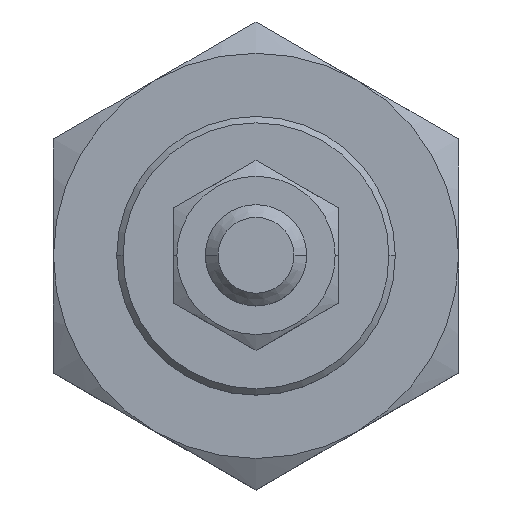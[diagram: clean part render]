
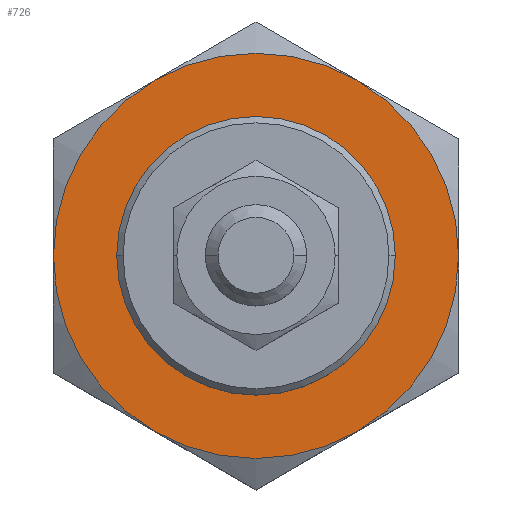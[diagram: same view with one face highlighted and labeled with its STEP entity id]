
A CAD part, top view. The second image highlights one B-rep face of the part: STEP entity #726.
In plain terms, the highlighted planar face has unit normal (0, 0, 1).
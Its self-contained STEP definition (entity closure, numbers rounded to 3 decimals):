
#3 = EDGE_CURVE ( 'NONE', #1230, #2369, #3244, .T. ) ;
#89 = DIRECTION ( 'NONE',  ( 0., 0., -1. ) ) ;
#94 = DIRECTION ( 'NONE',  ( -1., 0., 0. ) ) ;
#186 = DIRECTION ( 'NONE',  ( -1., 0., 0. ) ) ;
#197 = CARTESIAN_POINT ( 'NONE',  ( 0., 0., 5.5 ) ) ;
#216 = CARTESIAN_POINT ( 'NONE',  ( -8., -13.856, 5.5 ) ) ;
#229 = CARTESIAN_POINT ( 'NONE',  ( 0., 0., 5.5 ) ) ;
#266 = EDGE_CURVE ( 'NONE', #504, #2222, #1772, .T. ) ;
#298 = CARTESIAN_POINT ( 'NONE',  ( 0., 0., 5.5 ) ) ;
#300 = CARTESIAN_POINT ( 'NONE',  ( 8., -13.856, 5.5 ) ) ;
#467 = DIRECTION ( 'NONE',  ( 0., 0., 1. ) ) ;
#504 = VERTEX_POINT ( 'NONE', #300 ) ;
#510 = ORIENTED_EDGE ( 'NONE', *, *, #2425, .F. ) ;
#559 = DIRECTION ( 'NONE',  ( 0., 0., -1. ) ) ;
#699 = CARTESIAN_POINT ( 'NONE',  ( 0., 0., 5.5 ) ) ;
#726 = ADVANCED_FACE ( 'NONE', ( #2500, #2810 ), #746, .T. ) ;
#746 = PLANE ( 'NONE',  #1966 ) ;
#795 = CARTESIAN_POINT ( 'NONE',  ( 0., 0., 5.5 ) ) ;
#981 = CIRCLE ( 'NONE', #3122, 16. ) ;
#1049 = DIRECTION ( 'NONE',  ( 0., 0., 1. ) ) ;
#1093 = AXIS2_PLACEMENT_3D ( 'NONE', #795, #1644, #2267 ) ;
#1167 = EDGE_CURVE ( 'NONE', #2182, #3705, #981, .T. ) ;
#1201 = EDGE_LOOP ( 'NONE', ( #2158, #3012, #3359, #2315, #510, #2611 ) ) ;
#1230 = VERTEX_POINT ( 'NONE', #3501 ) ;
#1429 = CARTESIAN_POINT ( 'NONE',  ( 0., 0., 5.5 ) ) ;
#1514 = ORIENTED_EDGE ( 'NONE', *, *, #3093, .F. ) ;
#1543 = CIRCLE ( 'NONE', #1916, 11. ) ;
#1569 = CARTESIAN_POINT ( 'NONE',  ( -8., 13.856, 5.5 ) ) ;
#1644 = DIRECTION ( 'NONE',  ( 0., 0., -1. ) ) ;
#1772 = CIRCLE ( 'NONE', #1961, 16. ) ;
#1842 = CIRCLE ( 'NONE', #2948, 16. ) ;
#1916 = AXIS2_PLACEMENT_3D ( 'NONE', #3149, #467, #3414 ) ;
#1921 = CIRCLE ( 'NONE', #2899, 11. ) ;
#1961 = AXIS2_PLACEMENT_3D ( 'NONE', #699, #89, #2104 ) ;
#1966 = AXIS2_PLACEMENT_3D ( 'NONE', #197, #1049, #3698 ) ;
#1967 = EDGE_CURVE ( 'NONE', #2369, #504, #1842, .T. ) ;
#1999 = ORIENTED_EDGE ( 'NONE', *, *, #3437, .F. ) ;
#2009 = DIRECTION ( 'NONE',  ( 0., 0., -1. ) ) ;
#2042 = CIRCLE ( 'NONE', #2518, 16. ) ;
#2104 = DIRECTION ( 'NONE',  ( -1., 0., 0. ) ) ;
#2152 = AXIS2_PLACEMENT_3D ( 'NONE', #1429, #559, #3775 ) ;
#2158 = ORIENTED_EDGE ( 'NONE', *, *, #1967, .F. ) ;
#2182 = VERTEX_POINT ( 'NONE', #3022 ) ;
#2216 = DIRECTION ( 'NONE',  ( 0., 0., 1. ) ) ;
#2222 = VERTEX_POINT ( 'NONE', #216 ) ;
#2267 = DIRECTION ( 'NONE',  ( -1., 0., 0. ) ) ;
#2315 = ORIENTED_EDGE ( 'NONE', *, *, #1167, .F. ) ;
#2369 = VERTEX_POINT ( 'NONE', #2848 ) ;
#2425 = EDGE_CURVE ( 'NONE', #2222, #2182, #3439, .T. ) ;
#2500 = FACE_BOUND ( 'NONE', #3712, .T. ) ;
#2518 = AXIS2_PLACEMENT_3D ( 'NONE', #2715, #2729, #94 ) ;
#2540 = DIRECTION ( 'NONE',  ( 1., 0., 0. ) ) ;
#2568 = EDGE_CURVE ( 'NONE', #3705, #1230, #2042, .T. ) ;
#2611 = ORIENTED_EDGE ( 'NONE', *, *, #266, .F. ) ;
#2654 = CARTESIAN_POINT ( 'NONE',  ( -11., 0., 5.5 ) ) ;
#2657 = VERTEX_POINT ( 'NONE', #3097 ) ;
#2715 = CARTESIAN_POINT ( 'NONE',  ( 0., 0., 5.5 ) ) ;
#2729 = DIRECTION ( 'NONE',  ( 0., 0., -1. ) ) ;
#2810 = FACE_OUTER_BOUND ( 'NONE', #1201, .T. ) ;
#2848 = CARTESIAN_POINT ( 'NONE',  ( 16., 0., 5.5 ) ) ;
#2899 = AXIS2_PLACEMENT_3D ( 'NONE', #3078, #2216, #2540 ) ;
#2948 = AXIS2_PLACEMENT_3D ( 'NONE', #298, #3510, #3780 ) ;
#3012 = ORIENTED_EDGE ( 'NONE', *, *, #3, .F. ) ;
#3022 = CARTESIAN_POINT ( 'NONE',  ( -16., 0., 5.5 ) ) ;
#3078 = CARTESIAN_POINT ( 'NONE',  ( 0., 0., 5.5 ) ) ;
#3093 = EDGE_CURVE ( 'NONE', #2657, #3165, #1543, .T. ) ;
#3097 = CARTESIAN_POINT ( 'NONE',  ( 11., 0., 5.5 ) ) ;
#3122 = AXIS2_PLACEMENT_3D ( 'NONE', #229, #2009, #186 ) ;
#3149 = CARTESIAN_POINT ( 'NONE',  ( 0., 0., 5.5 ) ) ;
#3165 = VERTEX_POINT ( 'NONE', #2654 ) ;
#3244 = CIRCLE ( 'NONE', #1093, 16. ) ;
#3359 = ORIENTED_EDGE ( 'NONE', *, *, #2568, .F. ) ;
#3414 = DIRECTION ( 'NONE',  ( 1., 0., 0. ) ) ;
#3437 = EDGE_CURVE ( 'NONE', #3165, #2657, #1921, .T. ) ;
#3439 = CIRCLE ( 'NONE', #2152, 16. ) ;
#3501 = CARTESIAN_POINT ( 'NONE',  ( 8., 13.856, 5.5 ) ) ;
#3510 = DIRECTION ( 'NONE',  ( 0., 0., -1. ) ) ;
#3698 = DIRECTION ( 'NONE',  ( 1., 0., 0. ) ) ;
#3705 = VERTEX_POINT ( 'NONE', #1569 ) ;
#3712 = EDGE_LOOP ( 'NONE', ( #1999, #1514 ) ) ;
#3775 = DIRECTION ( 'NONE',  ( -1., 0., 0. ) ) ;
#3780 = DIRECTION ( 'NONE',  ( -1., 0., 0. ) ) ;
